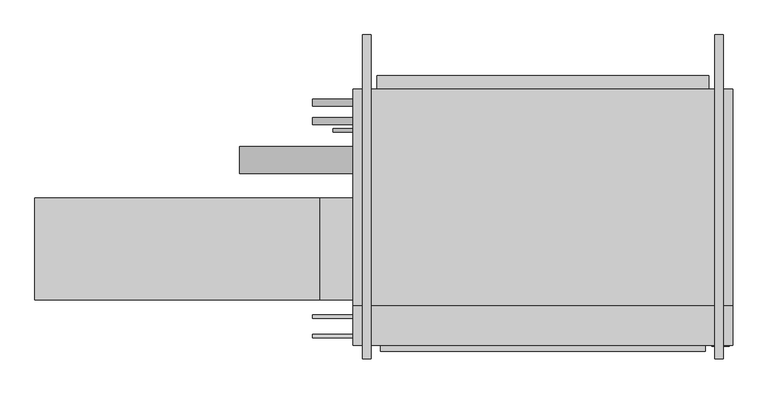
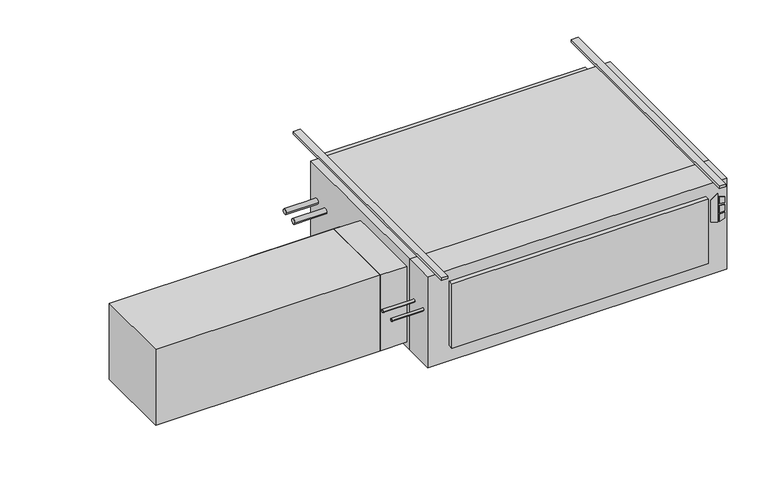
"""IFC4 building model written with IfcOpenShell, lengths in millimetres: proxy geometry."""

from ifc_helpers import new_model, si_unit, point, frame, frame_2d, origin, origin_with_axes, place, context, project, spatial, polyline, circle_curve, trimmed, segment, composite_curve, outline, extrude, source, transform, mapped, element, save


def mechanical_equipment_15b8e653(model_context):
    return source(origin(), model_context, "Body", "SweptSolid", [
        extrude(outline(polyline([(-193.2519297, 785.8868862), (-203.2, 818.0602728), (-61.0290756, 818.0602728), (-84.0510817, 785.8868862), (-193.2519297, 785.8868862)])), frame((0.0, -797.052, 0.0), z_axis=(0.0, 1.0, 0.0), x_axis=(0.0, 0.0, 1.0)), (0.0, 0.0, 1.0), 3.175),
        extrude(outline(polyline([(-114.2526443, 824.8186058), (-117.4550368, 850.9), (-88.2261958, 850.9), (-80.1617807, 824.8186058), (-114.2526443, 824.8186058)])), frame((0.0, -797.052, 0.0), z_axis=(0.0, 1.0, 0.0), x_axis=(0.0, 0.0, 1.0)), (0.0, 0.0, 1.0), 3.175),
        extrude(outline(polyline([(-166.1161712, 850.9), (-169.7816721, 824.8186058), (-203.2, 824.8186058), (-194.5657628, 850.9), (-166.1161712, 850.9)])), frame((0.0, -797.052, 0.0), z_axis=(0.0, 1.0, 0.0), x_axis=(0.0, 0.0, 1.0)), (0.0, 0.0, 1.0), 3.175),
        extrude(outline(polyline([(-126.8010097, 850.9), (-124.5191834, 824.8186058), (-160.4567319, 824.8186058), (-157.7154669, 850.9), (-126.8010097, 850.9)])), frame((0.0, -797.052, 0.0), z_axis=(0.0, 1.0, 0.0), x_axis=(0.0, 0.0, 1.0)), (0.0, 0.0, 1.0), 3.175),
        extrude(outline(polyline([(863.6, -793.877), (-558.8, -793.877), (-558.8, -644.525), (863.6, -644.525), (863.6, -793.877)])), frame((0.0, 0.0, -457.2), z_axis=(0.0, 0.0, 1.0), x_axis=(1.0, 0.0, 0.0)), (0.0, 0.0, 1.0), 457.2),
        extrude(outline(polyline([(762.0, -816.229), (-457.2, -816.229), (-457.2, -793.877), (762.0, -793.877), (762.0, -816.229)])), frame((0.0, 0.0, -381.0), z_axis=(0.0, 0.0, 1.0), x_axis=(1.0, 0.0, 0.0)), (0.0, 0.0, 1.0), 323.85),
        extrude(outline(polyline([(-1752.6, -622.3), (-1752.6, -241.3), (-685.8, -241.3), (-685.8, -622.3), (-1752.6, -622.3)])), frame((0.0, 0.0, -431.8), z_axis=(0.0, 0.0, 1.0), x_axis=(1.0, 0.0, 0.0)), (0.0, 0.0, 1.0), 381.0),
        extrude(outline(polyline([(-558.8, -241.3), (-558.8, -622.3), (-685.8, -622.3), (-685.8, -241.3), (-558.8, -241.3)])), frame((0.0, 0.0, -431.8), z_axis=(0.0, 0.0, 1.0), x_axis=(1.0, 0.0, 0.0)), (0.0, 0.0, 1.0), 381.0),
        extrude(outline(composite_curve([segment(trimmed(circle_curve(frame_2d((-758.825, -184.15)), 6.35), [point((-765.175, -184.15))], [point((-752.475, -184.15))], False, "CARTESIAN"), True, "CONTINUOUS"), segment(trimmed(circle_curve(frame_2d((-758.825, -184.15)), 6.35), [point((-752.475, -184.15))], [point((-765.175, -184.15))], False, "CARTESIAN"), True, "CONTINUOUS")], self_intersect=False)), frame((-711.2, 0.0, 0.0), z_axis=(1.0, 0.0, 0.0), x_axis=(0.0, 1.0, 0.0)), (0.0, 0.0, 1.0), 152.4),
        extrude(outline(composite_curve([segment(trimmed(circle_curve(frame_2d((-685.8, -184.15)), 6.35), [point((-692.15, -184.15))], [point((-679.45, -184.15))], False, "CARTESIAN"), True, "CONTINUOUS"), segment(trimmed(circle_curve(frame_2d((-685.8, -184.15)), 6.35), [point((-679.45, -184.15))], [point((-692.15, -184.15))], False, "CARTESIAN"), True, "CONTINUOUS")], self_intersect=False)), frame((-711.2, 0.0, 0.0), z_axis=(1.0, 0.0, 0.0), x_axis=(0.0, 1.0, 0.0)), (0.0, 0.0, 1.0), 152.4),
        extrude(outline(composite_curve([segment(trimmed(circle_curve(frame_2d((-98.4896516, -228.6360165)), 50.8), [point((-149.2896516, -228.6360165))], [point((-47.6896516, -228.6360165))], False, "CARTESIAN"), True, "CONTINUOUS"), segment(trimmed(circle_curve(frame_2d((-98.4896516, -228.6360165)), 50.8), [point((-47.6896516, -228.6360165))], [point((-149.2896516, -228.6360165))], False, "CARTESIAN"), True, "CONTINUOUS")], self_intersect=False)), frame((-984.25, 0.0, 0.0), z_axis=(1.0, 0.0, 0.0), x_axis=(0.0, 1.0, 0.0)), (0.0, 0.0, 1.0), 425.45),
        extrude(outline(composite_curve([segment(trimmed(circle_curve(frame_2d((47.625, -177.8)), 12.7), [point((34.925, -177.8))], [point((60.325, -177.8))], False, "CARTESIAN"), True, "CONTINUOUS"), segment(trimmed(circle_curve(frame_2d((47.625, -177.8)), 12.7), [point((60.325, -177.8))], [point((34.925, -177.8))], False, "CARTESIAN"), True, "CONTINUOUS")], self_intersect=False)), frame((-711.2, 0.0, 0.0), z_axis=(1.0, 0.0, 0.0), x_axis=(0.0, 1.0, 0.0)), (0.0, 0.0, 1.0), 152.4),
        extrude(outline(composite_curve([segment(trimmed(circle_curve(frame_2d((117.475, -171.45)), 12.7), [point((104.775, -171.45))], [point((130.175, -171.45))], False, "CARTESIAN"), True, "CONTINUOUS"), segment(trimmed(circle_curve(frame_2d((117.475, -171.45)), 12.7), [point((130.175, -171.45))], [point((104.775, -171.45))], False, "CARTESIAN"), True, "CONTINUOUS")], self_intersect=False)), frame((-711.2, 0.0, 0.0), z_axis=(1.0, 0.0, 0.0), x_axis=(0.0, 1.0, 0.0)), (0.0, 0.0, 1.0), 152.4),
        extrude(outline(composite_curve([segment(trimmed(circle_curve(frame_2d((12.7, -409.575)), 6.35), [point((6.35, -409.575))], [point((19.05, -409.575))], False, "CARTESIAN"), True, "CONTINUOUS"), segment(trimmed(circle_curve(frame_2d((12.7, -409.575)), 6.35), [point((19.05, -409.575))], [point((6.35, -409.575))], False, "CARTESIAN"), True, "CONTINUOUS")], self_intersect=False)), frame((-635.0, 0.0, 0.0), z_axis=(1.0, 0.0, 0.0), x_axis=(0.0, 1.0, 0.0)), (0.0, 0.0, 1.0), 76.2),
        extrude(outline(polyline([(863.6, 168.275), (863.6, -644.525), (-558.8, -644.525), (-558.8, 168.275), (863.6, 168.275)])), frame((0.0, 0.0, -457.2), z_axis=(0.0, 0.0, 1.0), x_axis=(1.0, 0.0, 0.0)), (0.0, 0.0, 1.0), 457.2),
        extrude(outline(polyline([(-469.9, 219.075), (774.7, 219.075), (774.7, 168.275), (-469.9, 168.275), (-469.9, 219.075)])), frame((0.0, 0.0, -381.0), z_axis=(0.0, 0.0, 1.0), x_axis=(1.0, 0.0, 0.0)), (0.0, 0.0, 1.0), 355.6),
        extrude(outline(polyline([(-492.125, 371.475), (-492.125, -844.677), (-523.875, -844.677), (-523.875, 371.475), (-492.125, 371.475)])), origin_with_axes(), (0.0, 0.0, 1.0), 12.7),
        extrude(outline(polyline([(828.675, 371.475), (828.675, -844.677), (796.925, -844.677), (796.925, 371.475), (828.675, 371.475)])), origin_with_axes(), (0.0, 0.0, 1.0), 12.7),
    ])


if __name__ == "__main__":
    model = new_model("IFC4")
    model_context = context("Model", 3, world=origin())
    ifc_project = project(units=[si_unit("LENGTHUNIT", "METRE", prefix="MILLI")], contexts=[model_context])
    site = spatial("IfcSite", under=ifc_project)
    building = spatial("IfcBuilding", under=site)
    placement = place(None, origin())
    mechanical_equipment_shape = mechanical_equipment_15b8e653(model_context)
    element("IfcBuildingElementProxy", 1, Name="High_Capacity_Horizontal_Cabinet_Fan_Coil_Unit_-_HTY_-_IEC_-_4-Pipe_LH Side_2022 : Size 20 - 115v/60Hz/1Ph - 4/1 Coil - 4\" AirIn", ObjectType="High_Capacity_Horizontal_Cabinet_Fan_Coil_Unit_-_HTY_-_IEC_-_4-Pipe_LH Side_2022 : Size 20 - 115v/60Hz/1Ph - 4/1 Coil - 4\" AirIn", at=placement, inside=building, context=model_context, shape_type="MappedRepresentation", body=[
        mapped(mechanical_equipment_shape, transform((0.0, 0.0, 0.0), x_axis=(1.0, 0.0, 0.0), y_axis=(0.0, 1.0, 0.0), z_axis=(0.0, 0.0, 1.0))),
    ])
    save(model, "model.ifc")
